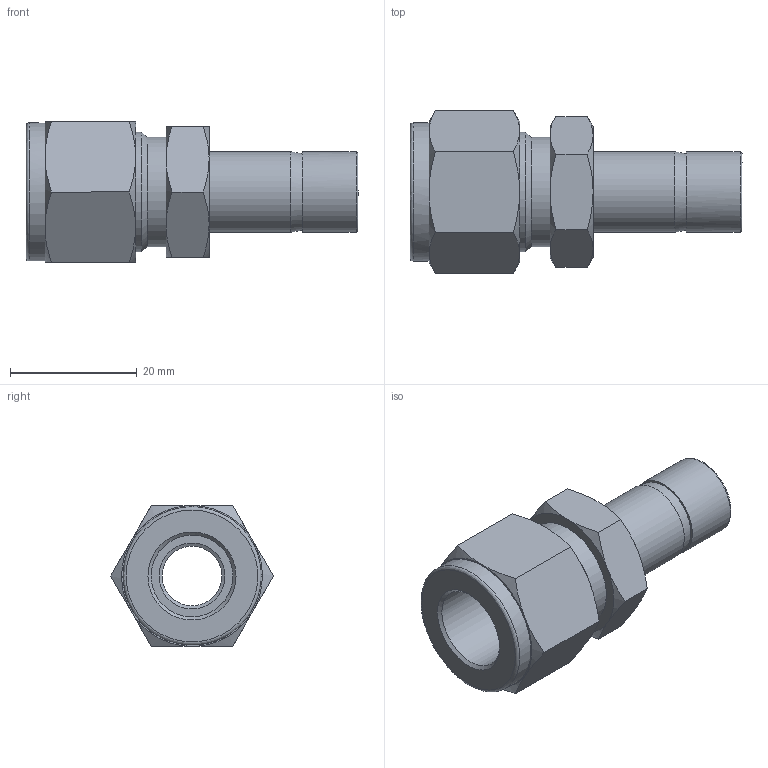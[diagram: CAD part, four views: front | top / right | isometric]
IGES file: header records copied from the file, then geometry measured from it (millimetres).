
Global section: file name: SR-8-8; native system: Autodesk Inventor 2016; preprocessor: unknown; author: DESIGNPC2; date: 20151112.195232; units: millimetre
Bounding box: 52.4 x 25.67 x 22.23 mm (x, y, z)
Volume: 8776.1 mm3; surface area: 5663.3 mm2
Topology: 1 solids, 1 shells, 59 faces, 154 edges, 104 vertices
Faces by surface type: bspline 59
